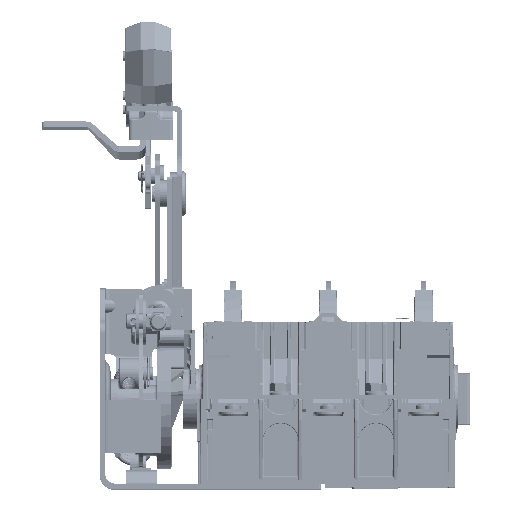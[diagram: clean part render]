
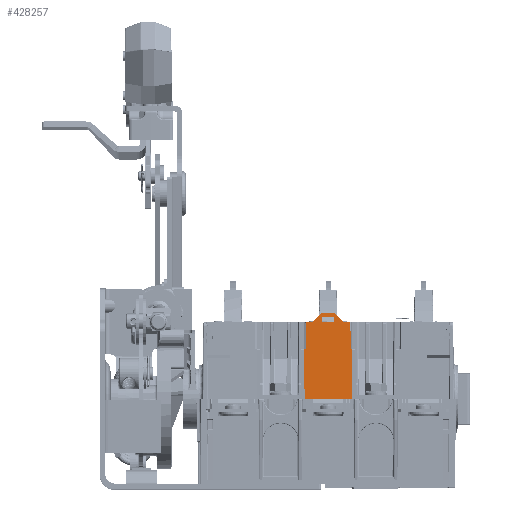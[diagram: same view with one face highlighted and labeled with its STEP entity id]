
A CAD part, top view. The second image highlights one B-rep face of the part: STEP entity #428257.
In plain terms, the highlighted planar face has unit normal (0, 0.009, 1) as drawn and (0, 0.009, -1) by its records, which use the part's own axes.
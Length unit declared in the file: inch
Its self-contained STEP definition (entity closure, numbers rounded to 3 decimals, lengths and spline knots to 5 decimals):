
#382304=CARTESIAN_POINT('',(-0.52325,1.805,-2.96725));
#382359=CARTESIAN_POINT('',(0.52325,1.805,-2.96725));
#387036=DIRECTION('',(-0.009,-1.,
-0.009));
#387037=VECTOR('',#387036,1.17509);
#387038=CARTESIAN_POINT('',(0.56925,1.175,-2.97275));
#387039=LINE('',#387038,#387037);
#387043=DIRECTION('',(1.,0.,0.));
#387044=VECTOR('',#387043,0.04051);
#387045=CARTESIAN_POINT('',(0.52875,1.175,-2.97275));
#387046=LINE('',#387045,#387044);
#387096=DIRECTION('',(-1.,0.,0.));
#387097=VECTOR('',#387096,0.28137);
#387098=CARTESIAN_POINT('',(0.14068,1.805,-2.96725));
#387099=LINE('',#387098,#387097);
#387103=DIRECTION('',(0.,-1.,
-0.009));
#387104=VECTOR('',#387103,0.12068);
#387105=CARTESIAN_POINT('',(-0.14067,1.92567,
-2.96619));
#387106=LINE('',#387105,#387104);
#387110=DIRECTION('',(-1.,0.,0.));
#387111=VECTOR('',#387110,0.28135);
#387112=CARTESIAN_POINT('',(0.14067,1.92567,
-2.96619));
#387113=LINE('',#387112,#387111);
#387117=DIRECTION('',(0.,1.,0.009));
#387118=VECTOR('',#387117,0.12068);
#387119=CARTESIAN_POINT('',(0.14068,1.805,-2.96725));
#387120=LINE('',#387119,#387118);
#387180=DIRECTION('',(0.009,1.,0.009));
#387181=VECTOR('',#387180,0.63005);
#387182=CARTESIAN_POINT('',(-0.52875,1.175,-2.97275));
#387183=LINE('',#387182,#387181);
#387187=DIRECTION('',(1.,0.,0.));
#387188=VECTOR('',#387187,1.118);
#387189=CARTESIAN_POINT('',(-0.559,0.,-2.983));
#387190=LINE('',#387189,#387188);
#387194=DIRECTION('',(0.009,-1.,-0.009));
#387195=VECTOR('',#387194,0.63005);
#387196=CARTESIAN_POINT('',(0.52325,1.805,-2.96725));
#387197=LINE('',#387196,#387195);
#387201=DIRECTION('',(-1.,0.,0.));
#387202=VECTOR('',#387201,0.15421);
#387203=CARTESIAN_POINT('',(0.52325,1.805,-2.96725));
#387204=LINE('',#387203,#387202);
#387208=DIRECTION('',(0.707,-0.707,-0.006));
#387209=VECTOR('',#387208,0.32432);
#387210=CARTESIAN_POINT('',(0.13972,2.03433,
-2.96525));
#387211=LINE('',#387210,#387209);
#387215=DIRECTION('',(1.,0.,0.));
#387216=VECTOR('',#387215,0.27945);
#387217=CARTESIAN_POINT('',(-0.13972,2.03433,
-2.96525));
#387218=LINE('',#387217,#387216);
#387222=DIRECTION('',(0.707,0.707,0.006));
#387223=VECTOR('',#387222,0.32432);
#387224=CARTESIAN_POINT('',(-0.36903,1.805,-2.96725));
#387225=LINE('',#387224,#387223);
#387229=DIRECTION('',(-1.,0.,0.));
#387230=VECTOR('',#387229,0.15421);
#387231=CARTESIAN_POINT('',(-0.36903,1.805,-2.96725));
#387232=LINE('',#387231,#387230);
#412968=DIRECTION('',(-0.009,1.,0.009));
#412969=VECTOR('',#412968,1.17509);
#412970=CARTESIAN_POINT('',(-0.559,0.,-2.983));
#412971=LINE('',#412970,#412969);
#412982=DIRECTION('',(1.,0.,0.));
#412983=VECTOR('',#412982,0.04051);
#412984=CARTESIAN_POINT('',(-0.56925,1.175,-2.97275));
#412985=LINE('',#412984,#412983);
#419055=CARTESIAN_POINT('',(0.14067,1.92567,
-2.96619));
#419056=CARTESIAN_POINT('',(-0.14067,1.92567,
-2.96619));
#419057=VERTEX_POINT('',#419055);
#419058=VERTEX_POINT('',#419056);
#419059=CARTESIAN_POINT('',(-0.13972,2.03433,
-2.96525));
#419060=CARTESIAN_POINT('',(0.13972,2.03433,
-2.96525));
#419061=VERTEX_POINT('',#419059);
#419062=VERTEX_POINT('',#419060);
#419063=CARTESIAN_POINT('',(0.14068,1.805,-2.96725));
#419064=VERTEX_POINT('',#419063);
#419065=CARTESIAN_POINT('',(-0.14068,1.805,-2.96725));
#419066=VERTEX_POINT('',#419065);
#419067=CARTESIAN_POINT('',(-0.36903,1.805,-2.96725));
#419068=VERTEX_POINT('',#419067);
#419069=CARTESIAN_POINT('',(0.36903,1.805,-2.96725));
#419070=VERTEX_POINT('',#419069);
#419287=CARTESIAN_POINT('',(0.559,0.,-2.983));
#419288=VERTEX_POINT('',#419287);
#419291=CARTESIAN_POINT('',(-0.559,0.,-2.983));
#419292=VERTEX_POINT('',#419291);
#419295=CARTESIAN_POINT('',(-0.56925,1.175,-2.97275));
#419296=VERTEX_POINT('',#419295);
#419297=CARTESIAN_POINT('',(0.56925,1.175,-2.97275));
#419298=VERTEX_POINT('',#419297);
#419860=VERTEX_POINT('',#382304);
#419864=CARTESIAN_POINT('',(-0.52875,1.175,-2.97275));
#419865=VERTEX_POINT('',#419864);
#419870=VERTEX_POINT('',#382359);
#419871=CARTESIAN_POINT('',(0.52875,1.175,-2.97275));
#419872=VERTEX_POINT('',#419871);
#428223=CARTESIAN_POINT('',(2.98741,0.,-2.983));
#428224=DIRECTION('',(0.,-0.009,1.));
#428225=DIRECTION('',(-1.,0.,0.));
#428226=AXIS2_PLACEMENT_3D('',#428223,#428224,#428225);
#428227=PLANE('',#428226);
#428229=ORIENTED_EDGE('',*,*,#428228,.F.);
#428231=ORIENTED_EDGE('',*,*,#428230,.F.);
#428233=ORIENTED_EDGE('',*,*,#428232,.F.);
#428234=ORIENTED_EDGE('',*,*,#420681,.T.);
#428235=ORIENTED_EDGE('',*,*,#428142,.F.);
#428236=ORIENTED_EDGE('',*,*,#428158,.F.);
#428237=ORIENTED_EDGE('',*,*,#428191,.F.);
#428238=ORIENTED_EDGE('',*,*,#422765,.T.);
#428240=ORIENTED_EDGE('',*,*,#428239,.F.);
#428242=ORIENTED_EDGE('',*,*,#428241,.F.);
#428244=ORIENTED_EDGE('',*,*,#428243,.F.);
#428245=ORIENTED_EDGE('',*,*,#422749,.T.);
#428246=EDGE_LOOP('',(#428229,#428231,#428233,#428234,#428235,#428236,#428237,
#428238,#428240,#428242,#428244,#428245));
#428247=FACE_OUTER_BOUND('',#428246,.F.);
#428248=ORIENTED_EDGE('',*,*,#422757,.T.);
#428250=ORIENTED_EDGE('',*,*,#428249,.F.);
#428252=ORIENTED_EDGE('',*,*,#428251,.F.);
#428254=ORIENTED_EDGE('',*,*,#428253,.F.);
#428255=EDGE_LOOP('',(#428248,#428250,#428252,#428254));
#428256=FACE_BOUND('',#428255,.F.);
#420681=EDGE_CURVE('',#419292,#419288,#387190,.T.);
#422749=EDGE_CURVE('',#419068,#419860,#387232,.T.);
#422757=EDGE_CURVE('',#419064,#419066,#387099,.T.);
#422765=EDGE_CURVE('',#419870,#419070,#387204,.T.);
#428142=EDGE_CURVE('',#419298,#419288,#387039,.T.);
#428158=EDGE_CURVE('',#419872,#419298,#387046,.T.);
#428191=EDGE_CURVE('',#419870,#419872,#387197,.T.);
#428228=EDGE_CURVE('',#419865,#419860,#387183,.T.);
#428230=EDGE_CURVE('',#419296,#419865,#412985,.T.);
#428232=EDGE_CURVE('',#419292,#419296,#412971,.T.);
#428239=EDGE_CURVE('',#419062,#419070,#387211,.T.);
#428241=EDGE_CURVE('',#419061,#419062,#387218,.T.);
#428243=EDGE_CURVE('',#419068,#419061,#387225,.T.);
#428249=EDGE_CURVE('',#419058,#419066,#387106,.T.);
#428251=EDGE_CURVE('',#419057,#419058,#387113,.T.);
#428253=EDGE_CURVE('',#419064,#419057,#387120,.T.);
#428257=ADVANCED_FACE('',(#428247,#428256),#428227,.F.);
